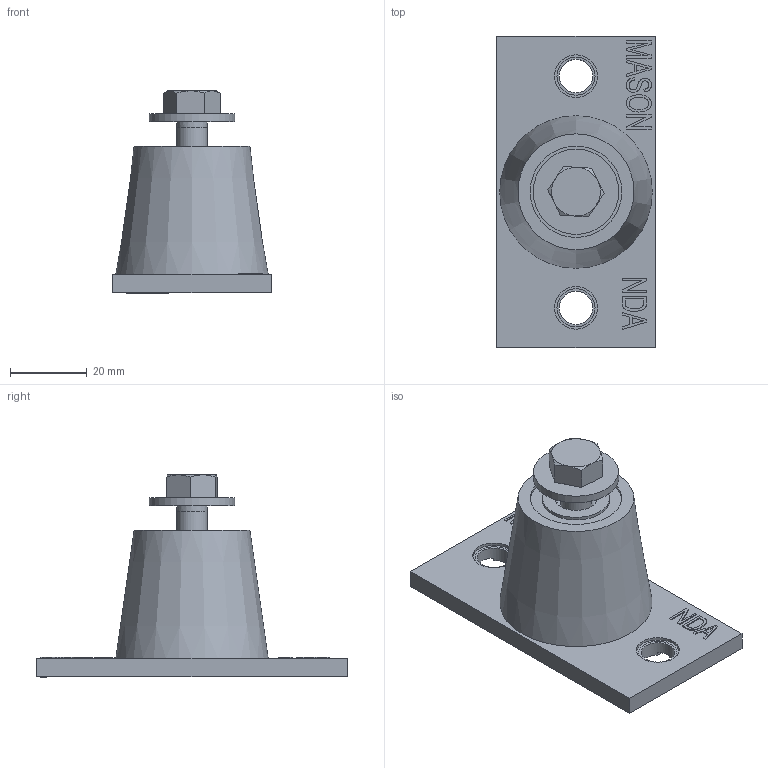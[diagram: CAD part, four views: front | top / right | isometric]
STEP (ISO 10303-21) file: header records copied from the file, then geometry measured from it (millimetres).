
FILE_DESCRIPTION((''),'2;1');
FILE_NAME('C:\2012_Work\Designs\ND\ND-A\A-1008-2 NDA MOUNT_BLACK.stp','2013-09-10T13:36:30',('KShiels'),(''),'Autodesk Inventor 2012','Autodesk Inventor 2012','');
FILE_SCHEMA(('AUTOMOTIVE_DESIGN { 1 0 10303 214 1 1 1 1 }'));
Length unit declared in the file: inch
Products named in the file (6): A-1008-2 NDA MOUNT_BLACK; A-1013-3 NDA BASEPLATE; A-4425 NDA TOP INSERT; A-1008-2 NDA RUBBER_BLACK; ANSI_ASME B18.2.1 - 5_16-18 UNC - 0; ANSI B18.22.1 - 5_16 - wide - Type A_NDA
Assembly tree (5 placements, depth 2):
  A-1008-2 NDA MOUNT_BLACK
    A-1013-3 NDA BASEPLATE
    A-4425 NDA TOP INSERT
    A-1008-2 NDA RUBBER_BLACK
    ANSI_ASME B18.2.1 - 5_16-18 UNC - 0
    ANSI B18.22.1 - 5_16 - wide - Type A_NDA
Bounding box: 41.27 x 80.96 x 52.65 mm (x, y, z)
Volume: 48602.6 mm3; surface area: 21713.7 mm2
Topology: 5 solids, 5 shells, 351 faces, 892 edges, 590 vertices
Faces by surface type: plane 269, bspline 49, cylinder 20, cone 10, torus 3
Full cylindrical faces by diameter (mm): 6.756 x1, 7.938 x1, 8.731 x2, 9.525 x1, 9.922 x2, 9.931 x2, 11.113 x3, 12.7 x2, 17.463 x1, 20.638 x1, 22.225 x3, 23.813 x1
Entity records: 10811 total; most frequent: CARTESIAN_POINT 2541, ORIENTED_EDGE 1714, DIRECTION 1449, EDGE_CURVE 857, VECTOR 671, LINE 671, VERTEX_POINT 582, EDGE_LOOP 433
